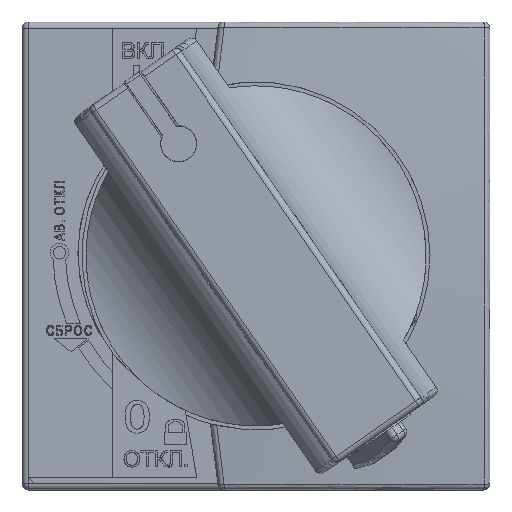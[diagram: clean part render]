
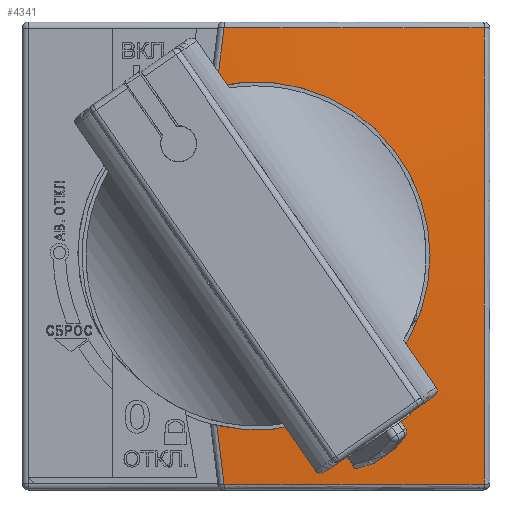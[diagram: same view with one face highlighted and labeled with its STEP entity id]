
A CAD part, top view. The second image highlights one B-rep face of the part: STEP entity #4341.
In plain terms, the highlighted spherical face has radius 449.766 mm.
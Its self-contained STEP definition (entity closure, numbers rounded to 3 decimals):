
#4341=ADVANCED_FACE('',(#25150),#25152,.T.);
#25150=FACE_BOUND('',#25151,.T.);
#25151=EDGE_LOOP('',(#42501,#42502,#42503,#42504,#42505,#42506,#42507));
#25152=SPHERICAL_SURFACE('',#25153,449.766);
#25153=AXIS2_PLACEMENT_3D('',#25154,#25155,#25156);
#25154=CARTESIAN_POINT('',(0.,0.,-435.9));
#25155=DIRECTION('',(0.,0.,1.));
#25156=DIRECTION('',(1.,0.,0.));
#42501=ORIENTED_EDGE('',*,*,#54233,.F.);
#42502=ORIENTED_EDGE('',*,*,#52901,.F.);
#42503=ORIENTED_EDGE('',*,*,#52910,.F.);
#42504=ORIENTED_EDGE('',*,*,#54232,.F.);
#42505=ORIENTED_EDGE('',*,*,#54234,.F.);
#42506=ORIENTED_EDGE('',*,*,#54235,.F.);
#42507=ORIENTED_EDGE('',*,*,#54236,.F.);
#52901=EDGE_CURVE('',#60104,#60105,#60106,.T.);
#52910=EDGE_CURVE('',#60119,#60104,#60121,.T.);
#54232=EDGE_CURVE('',#62423,#60119,#62425,.T.);
#54233=EDGE_CURVE('',#60105,#62426,#62427,.T.);
#54234=EDGE_CURVE('',#62428,#62423,#62429,.F.);
#54235=EDGE_CURVE('',#62430,#62428,#62431,.F.);
#54236=EDGE_CURVE('',#62426,#62430,#62432,.F.);
#60104=VERTEX_POINT('',#78927);
#60105=VERTEX_POINT('',#78928);
#60106=CIRCLE('',#78929,27.9);
#60119=VERTEX_POINT('',#78977);
#60121=CIRCLE('',#78993,27.9);
#62423=VERTEX_POINT('',#87381);
#62425=B_SPLINE_CURVE_WITH_KNOTS('',3,
(#87398,#87399,#87400,#87401,#87402,#87403),
.UNSPECIFIED.,.F.,.F.,
(4,1,1,4),
(0.,0.333,0.667,1.),
.UNSPECIFIED.);
#62426=VERTEX_POINT('',#87404);
#62427=B_SPLINE_CURVE_WITH_KNOTS('',3,
(#87405,#87406,#87407,#87408,#87409,#87410,#87411,#87412,#87413),
.UNSPECIFIED.,.F.,.F.,
(4,1,1,1,1,1,4),
(0.,0.155,0.293,0.429,0.584,0.779,
1.),
.UNSPECIFIED.);
#62428=VERTEX_POINT('',#87414);
#62429=B_SPLINE_CURVE_WITH_KNOTS('',3,
(#87415,#87416,#87417,#87418,#87419,#87420,#87421,#87422),
.UNSPECIFIED.,.F.,.F.,
(4,1,1,1,1,4),
(0.,0.234,0.453,0.695,0.883,1.),
.UNSPECIFIED.);
#62430=VERTEX_POINT('',#87423);
#62431=B_SPLINE_CURVE_WITH_KNOTS('',3,
(#87424,#87425,#87426,#87427,#87428,#87429,#87430,#87431,#87432),
.UNSPECIFIED.,.F.,.F.,
(4,1,1,1,1,1,4),
(0.,0.205,0.371,0.506,0.683,0.849,
1.),
.UNSPECIFIED.);
#62432=B_SPLINE_CURVE_WITH_KNOTS('',3,
(#87433,#87434,#87435,#87436,#87437,#87438,#87439),
.UNSPECIFIED.,.F.,.F.,
(4,1,1,1,4),
(0.,0.297,0.551,0.774,1.),
.UNSPECIFIED.);
#78927=CARTESIAN_POINT('',(27.9,0.,13.));
#78928=CARTESIAN_POINT('',(-6.282,27.183,13.));
#78929=AXIS2_PLACEMENT_3D('',#78930,#78931,#78932);
#78930=CARTESIAN_POINT('',(0.,0.,13.));
#78931=DIRECTION('',(0.,0.,1.));
#78932=DIRECTION('',(1.,0.,0.));
#78977=CARTESIAN_POINT('',(-6.282,-27.183,13.));
#78993=AXIS2_PLACEMENT_3D('',#78994,#78995,#78996);
#78994=CARTESIAN_POINT('',(0.,0.,13.));
#78995=DIRECTION('',(0.,0.,1.));
#78996=DIRECTION('',(-0.225,-0.974,0.));
#87381=CARTESIAN_POINT('',(-5.127,-36.581,12.347));
#87398=CARTESIAN_POINT('',(-5.127,-36.581,12.347));
#87399=CARTESIAN_POINT('',(-5.255,-35.538,12.43));
#87400=CARTESIAN_POINT('',(-5.513,-33.451,12.59));
#87401=CARTESIAN_POINT('',(-5.892,-30.317,12.808));
#87402=CARTESIAN_POINT('',(-6.165,-28.229,12.938));
#87403=CARTESIAN_POINT('',(-6.282,-27.183,13.));
#87404=CARTESIAN_POINT('',(-5.127,36.581,12.347));
#87405=CARTESIAN_POINT('',(-6.282,27.183,13.));
#87406=CARTESIAN_POINT('',(-6.224,27.671,12.971));
#87407=CARTESIAN_POINT('',(-6.109,28.591,12.916));
#87408=CARTESIAN_POINT('',(-5.944,29.933,12.83));
#87409=CARTESIAN_POINT('',(-5.779,31.277,12.741));
#87410=CARTESIAN_POINT('',(-5.592,32.797,12.635));
#87411=CARTESIAN_POINT('',(-5.372,34.586,12.504));
#87412=CARTESIAN_POINT('',(-5.212,35.889,12.402));
#87413=CARTESIAN_POINT('',(-5.127,36.581,12.347));
#87414=CARTESIAN_POINT('',(36.581,-36.581,10.881));
#87415=CARTESIAN_POINT('',(-5.127,-36.581,12.347));
#87416=CARTESIAN_POINT('',(-1.871,-36.581,12.384));
#87417=CARTESIAN_POINT('',(4.437,-36.581,12.387));
#87418=CARTESIAN_POINT('',(14.111,-36.581,12.188));
#87419=CARTESIAN_POINT('',(23.134,-36.581,11.809));
#87420=CARTESIAN_POINT('',(30.729,-36.582,11.337));
#87421=CARTESIAN_POINT('',(34.958,-36.581,11.014));
#87422=CARTESIAN_POINT('',(36.581,-36.581,10.881));
#87423=CARTESIAN_POINT('',(36.581,36.581,10.881));
#87424=CARTESIAN_POINT('',(36.581,-36.581,10.881));
#87425=CARTESIAN_POINT('',(36.58,-31.599,11.289));
#87426=CARTESIAN_POINT('',(36.582,-22.548,11.878));
#87427=CARTESIAN_POINT('',(36.581,-10.19,12.306));
#87428=CARTESIAN_POINT('',(36.581,1.482,12.422));
#87429=CARTESIAN_POINT('',(36.581,13.151,12.242));
#87430=CARTESIAN_POINT('',(36.581,25.192,11.718));
#87431=CARTESIAN_POINT('',(36.582,32.918,11.181));
#87432=CARTESIAN_POINT('',(36.581,36.581,10.881));
#87433=CARTESIAN_POINT('',(36.581,36.581,10.881));
#87434=CARTESIAN_POINT('',(32.46,36.581,11.218));
#87435=CARTESIAN_POINT('',(24.804,36.582,11.739));
#87436=CARTESIAN_POINT('',(14.048,36.581,12.193));
#87437=CARTESIAN_POINT('',(4.267,36.581,12.388));
#87438=CARTESIAN_POINT('',(-1.976,36.581,12.383));
#87439=CARTESIAN_POINT('',(-5.127,36.581,12.347));
